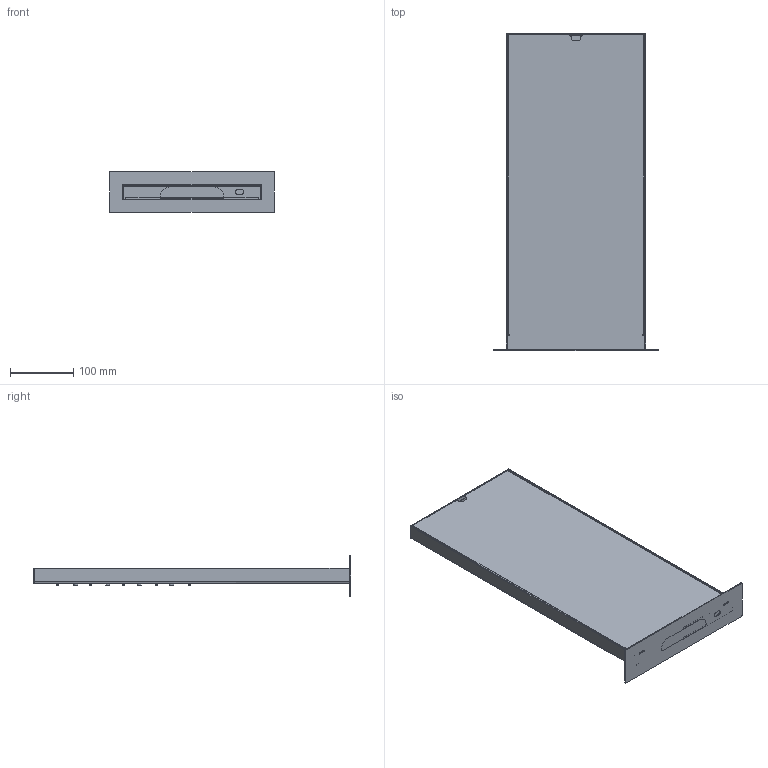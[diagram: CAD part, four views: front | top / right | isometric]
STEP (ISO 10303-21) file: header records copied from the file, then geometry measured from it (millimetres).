
FILE_DESCRIPTION((''),'2;1');
FILE_NAME('90604','2021-04-29T15:40:57',('carloff'),(''),'CREO PARAMETRIC BY PTC INC, 2018100','CREO PARAMETRIC BY PTC INC, 2018100','');
FILE_SCHEMA(('CONFIG_CONTROL_DESIGN'));
Products named in the file (1): 90604
Bounding box: 260 x 500 x 64 mm (x, y, z)
Volume: 594125.6 mm3; surface area: 605777.4 mm2
Topology: 2 solids, 2 shells, 1757 faces, 4069 edges, 2382 vertices
Faces by surface type: torus 680, cylinder 428, plane 416, bspline 128, sphere 76, cone 29
Entity records: 56473 total; most frequent: CARTESIAN_POINT 16491, DIRECTION 9132, ORIENTED_EDGE 7986, EDGE_CURVE 3993, AXIS2_PLACEMENT_3D 3976, VERTEX_POINT 2382, CIRCLE 2347, EDGE_LOOP 1927
